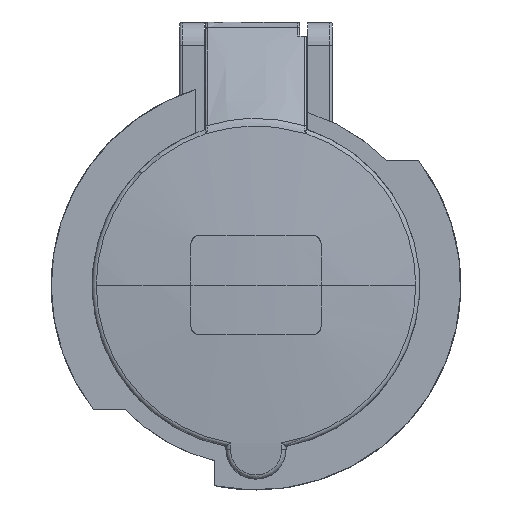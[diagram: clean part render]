
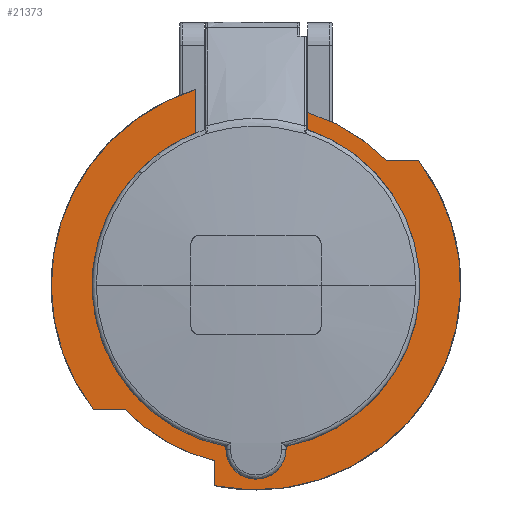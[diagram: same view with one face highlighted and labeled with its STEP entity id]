
A CAD part, top view. The second image highlights one B-rep face of the part: STEP entity #21373.
In plain terms, the highlighted planar face has unit normal (0, 0, 1).
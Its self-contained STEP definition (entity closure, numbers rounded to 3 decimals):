
#21314 = VERTEX_POINT('',#21315);
#21315 = CARTESIAN_POINT('',(-6.473,-34.905,49.5));
#21323 = VERTEX_POINT('',#21324);
#21324 = CARTESIAN_POINT('',(-13.,33.034,49.5));
#21330 = EDGE_CURVE('',#21323,#21314,#21331,.T.);
#21331 = CIRCLE('',#21332,35.5);
#21332 = AXIS2_PLACEMENT_3D('',#21333,#21334,#21335);
#21333 = CARTESIAN_POINT('',(0.,0.,49.5));
#21334 = DIRECTION('',(0.,0.,1.));
#21335 = DIRECTION('',(-0.366,0.931,0.));
#21346 = VERTEX_POINT('',#21347);
#21347 = CARTESIAN_POINT('',(11.2,33.687,49.5));
#21355 = VERTEX_POINT('',#21356);
#21356 = CARTESIAN_POINT('',(6.473,-34.905,49.5));
#21362 = EDGE_CURVE('',#21355,#21346,#21363,.T.);
#21363 = CIRCLE('',#21364,35.5);
#21364 = AXIS2_PLACEMENT_3D('',#21365,#21366,#21367);
#21365 = CARTESIAN_POINT('',(0.,0.,49.5));
#21366 = DIRECTION('',(0.,0.,1.));
#21367 = DIRECTION('',(0.182,-0.983,0.));
#21373 = ADVANCED_FACE('',(#21374),#21467,.F.);
#21374 = FACE_BOUND('',#21375,.T.);
#21375 = EDGE_LOOP('',(#21376,#21386,#21395,#21403,#21412,#21420,#21429,
    #21437,#21443,#21444,#21451,#21452,#21460));
#21376 = ORIENTED_EDGE('',*,*,#21377,.T.);
#21377 = EDGE_CURVE('',#21378,#21380,#21382,.T.);
#21378 = VERTEX_POINT('',#21379);
#21379 = CARTESIAN_POINT('',(-35.184,-27.,49.5));
#21380 = VERTEX_POINT('',#21381);
#21381 = CARTESIAN_POINT('',(-28.212,-27.,49.5));
#21382 = LINE('',#21383,#21384);
#21383 = CARTESIAN_POINT('',(-35.184,-27.,49.5));
#21384 = VECTOR('',#21385,1.);
#21385 = DIRECTION('',(1.,0.,0.));
#21386 = ORIENTED_EDGE('',*,*,#21387,.T.);
#21387 = EDGE_CURVE('',#21380,#21388,#21390,.T.);
#21388 = VERTEX_POINT('',#21389);
#21389 = CARTESIAN_POINT('',(-9.,-37.999,49.5));
#21390 = CIRCLE('',#21391,39.05);
#21391 = AXIS2_PLACEMENT_3D('',#21392,#21393,#21394);
#21392 = CARTESIAN_POINT('',(0.,0.,49.5));
#21393 = DIRECTION('',(0.,0.,1.));
#21394 = DIRECTION('',(-0.722,-0.691,0.));
#21395 = ORIENTED_EDGE('',*,*,#21396,.F.);
#21396 = EDGE_CURVE('',#21397,#21388,#21399,.T.);
#21397 = VERTEX_POINT('',#21398);
#21398 = CARTESIAN_POINT('',(-9.,-43.427,49.5));
#21399 = LINE('',#21400,#21401);
#21400 = CARTESIAN_POINT('',(-9.,-43.427,49.5));
#21401 = VECTOR('',#21402,1.);
#21402 = DIRECTION('',(0.,1.,0.));
#21403 = ORIENTED_EDGE('',*,*,#21404,.T.);
#21404 = EDGE_CURVE('',#21397,#21405,#21407,.T.);
#21405 = VERTEX_POINT('',#21406);
#21406 = CARTESIAN_POINT('',(35.184,27.,49.5));
#21407 = CIRCLE('',#21408,44.35);
#21408 = AXIS2_PLACEMENT_3D('',#21409,#21410,#21411);
#21409 = CARTESIAN_POINT('',(0.,0.,49.5));
#21410 = DIRECTION('',(0.,0.,1.));
#21411 = DIRECTION('',(-0.203,-0.979,0.));
#21412 = ORIENTED_EDGE('',*,*,#21413,.T.);
#21413 = EDGE_CURVE('',#21405,#21414,#21416,.T.);
#21414 = VERTEX_POINT('',#21415);
#21415 = CARTESIAN_POINT('',(28.212,27.,49.5));
#21416 = LINE('',#21417,#21418);
#21417 = CARTESIAN_POINT('',(35.184,27.,49.5));
#21418 = VECTOR('',#21419,1.);
#21419 = DIRECTION('',(-1.,0.,0.));
#21420 = ORIENTED_EDGE('',*,*,#21421,.T.);
#21421 = EDGE_CURVE('',#21414,#21422,#21424,.T.);
#21422 = VERTEX_POINT('',#21423);
#21423 = CARTESIAN_POINT('',(11.2,37.409,49.5));
#21424 = CIRCLE('',#21425,39.05);
#21425 = AXIS2_PLACEMENT_3D('',#21426,#21427,#21428);
#21426 = CARTESIAN_POINT('',(0.,0.,49.5));
#21427 = DIRECTION('',(0.,0.,1.));
#21428 = DIRECTION('',(0.722,0.691,-0.));
#21429 = ORIENTED_EDGE('',*,*,#21430,.T.);
#21430 = EDGE_CURVE('',#21422,#21431,#21433,.T.);
#21431 = VERTEX_POINT('',#21432);
#21432 = CARTESIAN_POINT('',(11.2,34.7,49.5));
#21433 = LINE('',#21434,#21435);
#21434 = CARTESIAN_POINT('',(11.2,37.409,49.5));
#21435 = VECTOR('',#21436,1.);
#21436 = DIRECTION('',(0.,-1.,0.));
#21437 = ORIENTED_EDGE('',*,*,#21438,.T.);
#21438 = EDGE_CURVE('',#21431,#21346,#21439,.T.);
#21439 = LINE('',#21440,#21441);
#21440 = CARTESIAN_POINT('',(11.2,34.7,49.5));
#21441 = VECTOR('',#21442,1.);
#21442 = DIRECTION('',(0.,-1.,0.));
#21443 = ORIENTED_EDGE('',*,*,#21362,.F.);
#21444 = ORIENTED_EDGE('',*,*,#21445,.F.);
#21445 = EDGE_CURVE('',#21314,#21355,#21446,.T.);
#21446 = CIRCLE('',#21447,6.5);
#21447 = AXIS2_PLACEMENT_3D('',#21448,#21449,#21450);
#21448 = CARTESIAN_POINT('',(0.,-35.5,49.5));
#21449 = DIRECTION('',(0.,0.,1.));
#21450 = DIRECTION('',(-0.996,0.092,0.));
#21451 = ORIENTED_EDGE('',*,*,#21330,.F.);
#21452 = ORIENTED_EDGE('',*,*,#21453,.T.);
#21453 = EDGE_CURVE('',#21323,#21454,#21456,.T.);
#21454 = VERTEX_POINT('',#21455);
#21455 = CARTESIAN_POINT('',(-13.,42.402,49.5));
#21456 = LINE('',#21457,#21458);
#21457 = CARTESIAN_POINT('',(-13.,33.034,49.5));
#21458 = VECTOR('',#21459,1.);
#21459 = DIRECTION('',(0.,1.,0.));
#21460 = ORIENTED_EDGE('',*,*,#21461,.T.);
#21461 = EDGE_CURVE('',#21454,#21378,#21462,.T.);
#21462 = CIRCLE('',#21463,44.35);
#21463 = AXIS2_PLACEMENT_3D('',#21464,#21465,#21466);
#21464 = CARTESIAN_POINT('',(0.,0.,49.5));
#21465 = DIRECTION('',(0.,0.,1.));
#21466 = DIRECTION('',(-0.293,0.956,0.));
#21467 = PLANE('',#21468);
#21468 = AXIS2_PLACEMENT_3D('',#21469,#21470,#21471);
#21469 = CARTESIAN_POINT('',(0.,0.,49.5));
#21470 = DIRECTION('',(0.,0.,-1.));
#21471 = DIRECTION('',(1.,0.,0.));
